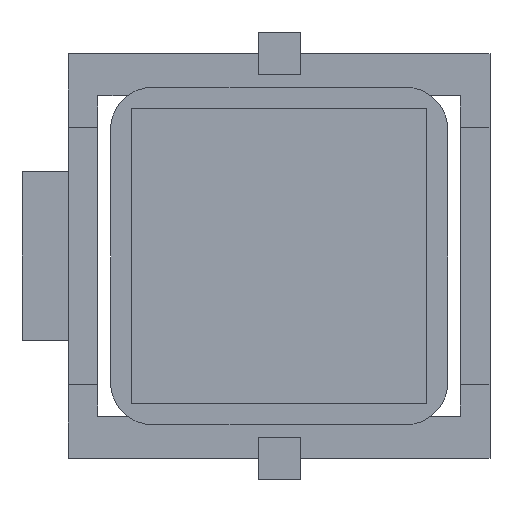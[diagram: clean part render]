
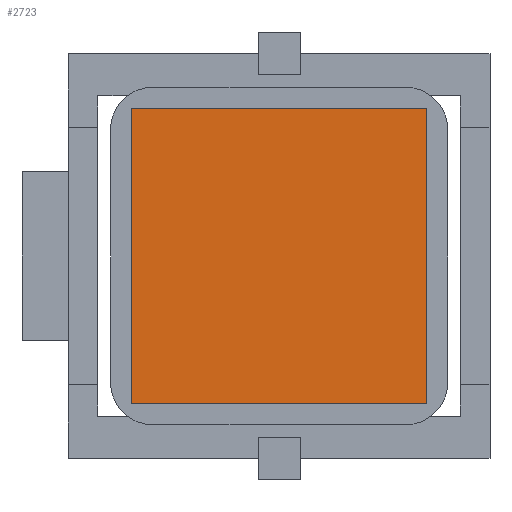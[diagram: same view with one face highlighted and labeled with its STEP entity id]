
A CAD part, front view. The second image highlights one B-rep face of the part: STEP entity #2723.
In plain terms, the highlighted planar face has unit normal (0, -1, 0).
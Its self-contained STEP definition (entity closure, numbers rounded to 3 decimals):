
#113 = ORIENTED_EDGE ( 'NONE', *, *, #1676, .F. ) ;
#225 = DIRECTION ( 'NONE',  ( 0., 0., 1. ) ) ;
#345 = CARTESIAN_POINT ( 'NONE',  ( -2.913, -13.936, 0.225 ) ) ;
#375 = VECTOR ( 'NONE', #1760, 1000. ) ;
#828 = LINE ( 'NONE', #3934, #2289 ) ;
#928 = VECTOR ( 'NONE', #1382, 1000. ) ;
#1020 = VECTOR ( 'NONE', #225, 1000. ) ;
#1086 = ORIENTED_EDGE ( 'NONE', *, *, #2058, .F. ) ;
#1130 = VERTEX_POINT ( 'NONE', #2698 ) ;
#1137 = EDGE_CURVE ( 'NONE', #2265, #1130, #2351, .T. ) ;
#1260 = CARTESIAN_POINT ( 'NONE',  ( -2.913, -13.936, 0.225 ) ) ;
#1382 = DIRECTION ( 'NONE',  ( 1., 0., 0. ) ) ;
#1427 = EDGE_LOOP ( 'NONE', ( #1086, #2490, #113, #3644 ) ) ;
#1606 = EDGE_CURVE ( 'NONE', #4042, #2346, #1832, .T. ) ;
#1676 = EDGE_CURVE ( 'NONE', #1130, #4042, #828, .T. ) ;
#1757 = PLANE ( 'NONE',  #2110 ) ;
#1760 = DIRECTION ( 'NONE',  ( -1., 0., 0. ) ) ;
#1832 = LINE ( 'NONE', #345, #375 ) ;
#1875 = DIRECTION ( 'NONE',  ( 0., 1., 0. ) ) ;
#1902 = CARTESIAN_POINT ( 'NONE',  ( -2.913, -13.936, 0.225 ) ) ;
#2001 = CARTESIAN_POINT ( 'NONE',  ( -2.913, -13.936, 14.225 ) ) ;
#2058 = EDGE_CURVE ( 'NONE', #2346, #2265, #3695, .T. ) ;
#2110 = AXIS2_PLACEMENT_3D ( 'NONE', #1902, #1875, #3148 ) ;
#2207 = FACE_OUTER_BOUND ( 'NONE', #1427, .T. ) ;
#2265 = VERTEX_POINT ( 'NONE', #2680 ) ;
#2289 = VECTOR ( 'NONE', #4391, 1000. ) ;
#2346 = VERTEX_POINT ( 'NONE', #3367 ) ;
#2351 = LINE ( 'NONE', #2001, #928 ) ;
#2490 = ORIENTED_EDGE ( 'NONE', *, *, #1606, .F. ) ;
#2680 = CARTESIAN_POINT ( 'NONE',  ( -2.913, -13.936, 14.225 ) ) ;
#2698 = CARTESIAN_POINT ( 'NONE',  ( 11.087, -13.936, 14.225 ) ) ;
#2723 = ADVANCED_FACE ( 'NONE', ( #2207 ), #1757, .F. ) ;
#2858 = CARTESIAN_POINT ( 'NONE',  ( 11.087, -13.936, 0.225 ) ) ;
#3148 = DIRECTION ( 'NONE',  ( 0., 0., 1. ) ) ;
#3367 = CARTESIAN_POINT ( 'NONE',  ( -2.913, -13.936, 0.225 ) ) ;
#3644 = ORIENTED_EDGE ( 'NONE', *, *, #1137, .F. ) ;
#3695 = LINE ( 'NONE', #1260, #1020 ) ;
#3934 = CARTESIAN_POINT ( 'NONE',  ( 11.087, -13.936, 0.225 ) ) ;
#4042 = VERTEX_POINT ( 'NONE', #2858 ) ;
#4391 = DIRECTION ( 'NONE',  ( 0., 0., -1. ) ) ;
